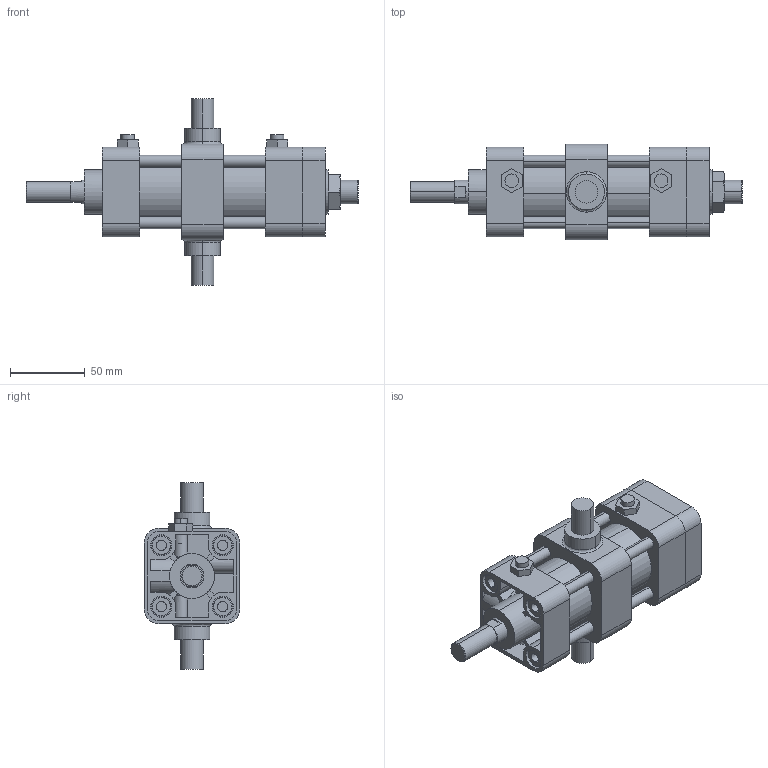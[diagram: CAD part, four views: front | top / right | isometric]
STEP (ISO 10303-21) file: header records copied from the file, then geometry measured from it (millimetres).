
FILE_DESCRIPTION (( 'STEP AP203' ), '1' );
FILE_NAME ('KGA2-40#-50-T.STEP', '2016-04-14T07:15:07', ( '' ), ( '' ), 'SwSTEP 2.0', 'SolidWorks 2014', '' );
FILE_SCHEMA (( 'CONFIG_CONTROL_DESIGN' ));
Length unit declared in the file: millimetre
Products named in the file (8): K-40-T; KGA2-40#-50-T; KGLH2-40-50; KG2-40-After; KGA2-40-After
Assembly tree (17 placements, depth 2):
  KGA2-40#-50-T
    KG2-40-After
    KGLH2-40-50
    (unnamed)
    (unnamed)  x4
    (unnamed)  x8
    K-40-T
    KGA2-40-After
Bounding box: 222 x 64 x 125 mm (x, y, z)
Volume: 438604.7 mm3; surface area: 118497.3 mm2
Topology: 17 solids, 22 shells, 404 faces, 937 edges, 599 vertices
Faces by surface type: cylinder 168, plane 166, torus 38, cone 28, bspline 4
Entity records: 11381 total; most frequent: CARTESIAN_POINT 2809, DIRECTION 1625, ORIENTED_EDGE 1494, EDGE_CURVE 747, AXIS2_PLACEMENT_3D 618, VERTEX_POINT 489, LINE 389, VECTOR 389
